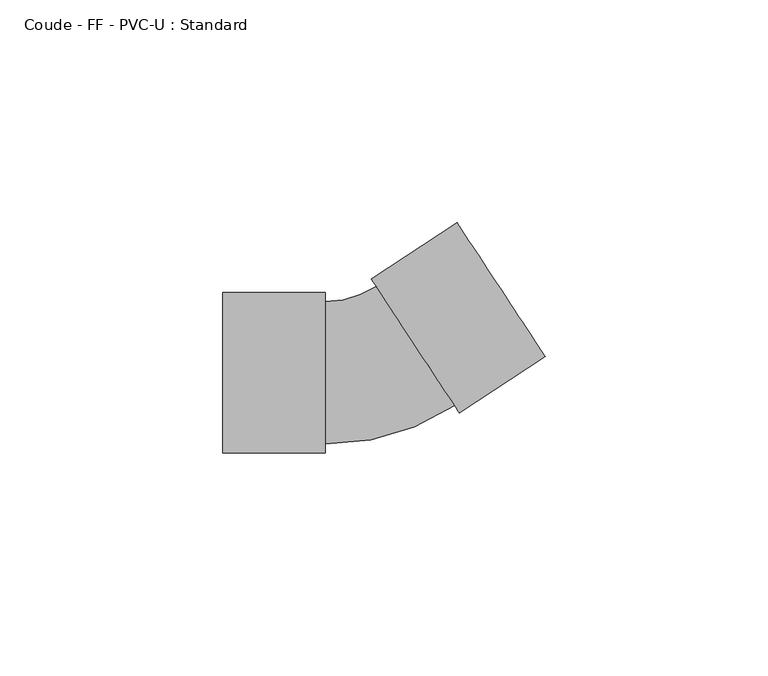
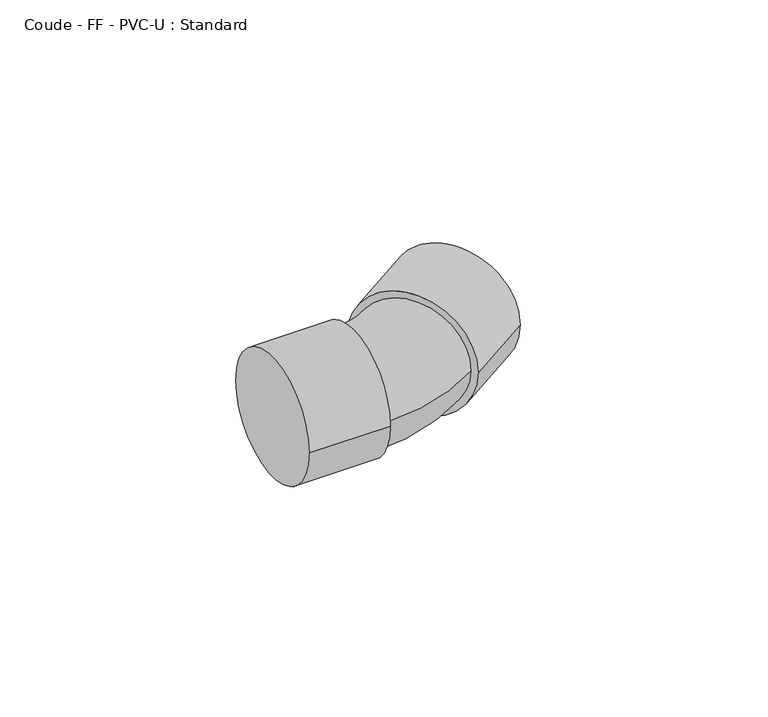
"""IFC4 building model written with IfcOpenShell, lengths in millimetres: pipe fitting geometry, Coude - FF - PVC-U : Standard."""

from ifc_helpers import new_model, si_unit, point, frame, origin, place, context, project, spatial, circle_curve, ellipse_curve, trimmed, source, transform, mapped, element, save
from ifc_brep_helpers import plane_surface, cylinder_surface, revolved_surface, advanced_brep


def coude_ff_pvc_u_standard_a16b05cb(model_context):
    return source(origin(), model_context, "Body", "AdvancedBrep", [
        advanced_brep(
        [(-34.0, -18.0, 0.0), (-34.0, 18.0, 0.0), (-11.0, -18.0, 0.0), (-11.0, 18.0, 0.0), (-11.0, -16.0, 0.0), (-11.0, 16.0, 0.0), (0.4062093, 19.4122383, 0.0), (17.979495, -7.3306044, 0.0), (19.0778253, -9.002032, 0.0), (-0.692121, 21.0836659, 0.0), (38.2992435, 3.6287671, 0.0), (18.5292971, 33.714465, 0.0)],
        [
            (0, 1, circle_curve(frame((-34.0, 0.0, 0.0), z_axis=(-1.0, 0.0, 0.0), x_axis=(0.0, 1.0, 0.0)), 18.0)),
            (1, 0, circle_curve(frame((-34.0, 0.0, 0.0), z_axis=(-1.0, 0.0, 0.0), x_axis=(0.0, 1.0, 0.0)), 18.0)),
            (2, 3, circle_curve(frame((-11.0, 0.0, 0.0), z_axis=(1.0, 0.0, 0.0), x_axis=(0.0, 1.0, 0.0)), 18.0)),
            (3, 2, circle_curve(frame((-11.0, 0.0, 0.0), z_axis=(1.0, 0.0, 0.0), x_axis=(0.0, 1.0, 0.0)), 18.0)),
            (4, 5, circle_curve(frame((-11.0, 0.0, 0.0), z_axis=(-1.0, 0.0, 0.0), x_axis=(0.0, 1.0, 0.0)), 16.0)),
            (5, 4, circle_curve(frame((-11.0, 0.0, 0.0), z_axis=(-1.0, 0.0, 0.0), x_axis=(0.0, 1.0, 0.0)), 16.0)),
            (0, 2),
            (3, 1),
            (6, 5, circle_curve(frame((-11.0, 36.7700884, 0.0), z_axis=(0.0, 0.0, -1.0), x_axis=(0.0, -1.0, 0.0)), 20.7700884)),
            (4, 7, circle_curve(frame((-11.0, 36.7700884, 0.0), z_axis=(0.0, 0.0, 1.0), x_axis=(0.0, -1.0, 0.0)), 52.7700884)),
            (7, 6, circle_curve(frame((9.1928521, 6.040817, 0.0), z_axis=(-0.8357138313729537, -0.549165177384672, 0.0), x_axis=(-0.549165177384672, 0.8357138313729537, 0.0)), 16.0)),
            (6, 7, circle_curve(frame((9.1928521, 6.040817, 0.0), z_axis=(-0.8357138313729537, -0.549165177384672, 0.0), x_axis=(-0.549165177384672, 0.8357138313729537, 0.0)), 16.0)),
            (8, 9, circle_curve(frame((9.1928521, 6.040817, 0.0), z_axis=(-0.8357138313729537, -0.5491651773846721, 0.0), x_axis=(-0.5491651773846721, 0.8357138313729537, 0.0)), 18.0)),
            (9, 8, circle_curve(frame((9.1928521, 6.040817, 0.0), z_axis=(-0.8357138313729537, -0.5491651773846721, 0.0), x_axis=(-0.5491651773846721, 0.8357138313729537, 0.0)), 18.0)),
            (10, 11, circle_curve(frame((28.4142703, 18.671616, 0.0), z_axis=(0.8357138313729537, 0.5491651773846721, 0.0), x_axis=(-0.5491651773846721, 0.8357138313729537, 0.0)), 18.0)),
            (11, 10, circle_curve(frame((28.4142703, 18.671616, 0.0), z_axis=(0.8357138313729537, 0.5491651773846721, 0.0), x_axis=(-0.5491651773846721, 0.8357138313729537, 0.0)), 18.0)),
            (8, 10),
            (11, 9),
        ],
        [
            plane_surface(frame((-34.0, 0.0, 0.0), z_axis=(-1.0, 0.0, 0.0), x_axis=(0.0, 0.0, 1.0))),
            plane_surface(frame((-11.0, 0.0, 0.0), z_axis=(1.0, 0.0, 0.0), x_axis=(0.0, 0.0, 1.0))),
            cylinder_surface(frame((-34.0, 0.0, 0.0), z_axis=(-1.0, 0.0, 0.0), x_axis=(0.0, 1.0, 0.0)), 18.0),
            revolved_surface(trimmed(ellipse_curve(frame((-11.0, 0.0, 0.0), z_axis=(-1.0, 0.0, 0.0), x_axis=(0.0, 1.0, 0.0)), 16.0, 16.0), [point((-11.0, -16.0, 0.0))], [point((-11.0, 16.0, 0.0))], True, "CARTESIAN"), (-11.0, 36.7700884, 0.0), (0.0, 0.0, 1.0)),
            revolved_surface(trimmed(ellipse_curve(frame((-11.0, 0.0, 0.0), z_axis=(-1.0, 0.0, 0.0), x_axis=(0.0, 1.0, 0.0)), 16.0, 16.0), [point((-11.0, 16.0, 0.0))], [point((-11.0, -16.0, 0.0))], True, "CARTESIAN"), (-11.0, 36.7700884, 0.0), (0.0, 0.0, 1.0)),
            plane_surface(frame((9.1928521, 6.040817, 0.0), z_axis=(-0.8357138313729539, -0.549165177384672, 0.0), x_axis=(0.0, 0.0, 1.0))),
            plane_surface(frame((28.4142703, 18.671616, 0.0), z_axis=(0.8357138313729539, 0.549165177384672, 0.0), x_axis=(0.0, 0.0, 1.0))),
            cylinder_surface(frame((9.1928521, 6.040817, 0.0), z_axis=(-0.8357138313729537, -0.5491651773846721, 0.0), x_axis=(-0.5491651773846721, 0.8357138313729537, 0.0)), 18.0),
        ],
        [
            (0, [[1, 2]]),
            (1, [[3, 4], [5, 6]]),
            (2, [[-1, 7, -4, 8]]),
            (2, [[-2, -8, -3, -7]]),
            (3, [[9, -5, 10, 11]]),
            (4, [[-9, 12, -10, -6]]),
            (5, [[13, 14], [-11, -12]]),
            (6, [[15, 16]]),
            (7, [[-13, 17, -16, 18]]),
            (7, [[-14, -18, -15, -17]]),
        ],
    ),
    ])


if __name__ == "__main__":
    model = new_model("IFC4")
    model_context = context("Model", 3, world=origin())
    ifc_project = project(units=[si_unit("LENGTHUNIT", "METRE", prefix="MILLI")], contexts=[model_context])
    site = spatial("IfcSite", under=ifc_project)
    building = spatial("IfcBuilding", under=site)
    placement = place(None, origin())
    coude_ff_pvc_u_standard_shape = coude_ff_pvc_u_standard_a16b05cb(model_context)
    element("IfcPipeFitting", 1, ObjectType="Coude - FF - PVC-U : Standard", at=placement, inside=building, context=model_context, shape_type="MappedRepresentation", body=[
        mapped(coude_ff_pvc_u_standard_shape, transform((0.0, 0.0, 0.0), x_axis=(1.0, 0.0, 0.0), y_axis=(0.0, 1.0, 0.0), z_axis=(0.0, 0.0, 1.0))),
    ])
    save(model, "model.ifc")
